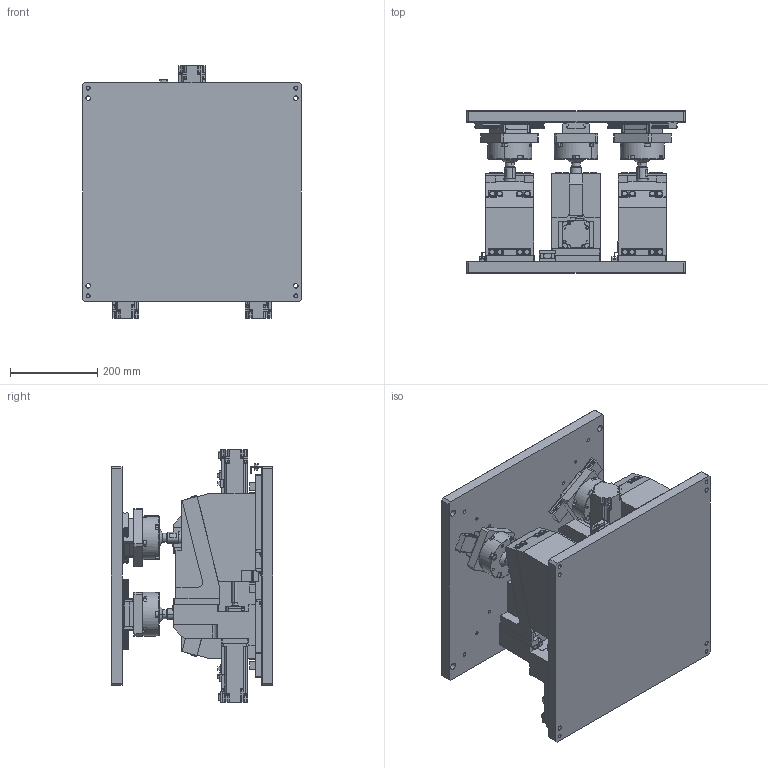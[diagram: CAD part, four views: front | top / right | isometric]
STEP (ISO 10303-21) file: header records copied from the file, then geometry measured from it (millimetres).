
FILE_DESCRIPTION (( 'STEP AP203' ), '1' );
FILE_NAME ('298_Z32AB05-AC3-350875_defeature_AP203.STEP', '2024-03-20T08:50:40', ( '' ), ( '' ), 'SwSTEP 2.0', 'SolidWorks 2023', '' );
FILE_SCHEMA (( 'CONFIG_CONTROL_DESIGN' ));
Products named in the file (1): 298_Z32AB05-AC3-350875_defeature_AP203
Bounding box: 500 x 369.95 x 577.2 mm (x, y, z)
Volume: 33545659.3 mm3; surface area: 2584382 mm2
Topology: 1 solids, 1 shells, 3877 faces, 10222 edges, 6500 vertices
Faces by surface type: plane 2655, cylinder 863, cone 335, bspline 12, torus 6, sphere 6
Entity records: 119202 total; most frequent: CARTESIAN_POINT 21642, ORIENTED_EDGE 20420, DIRECTION 20096, EDGE_CURVE 10210, VECTOR 7668, LINE 7668, VERTEX_POINT 6500, AXIS2_PLACEMENT_3D 6214
